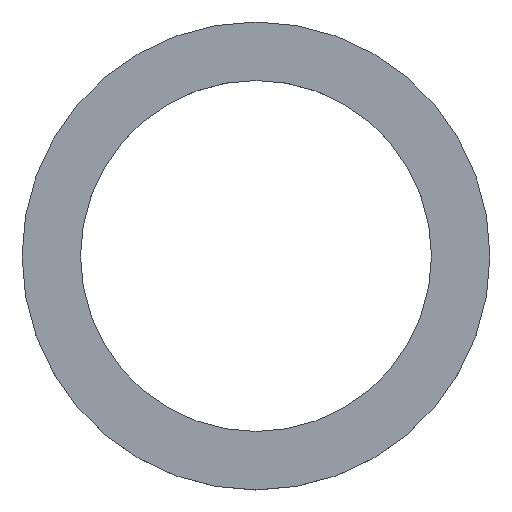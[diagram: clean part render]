
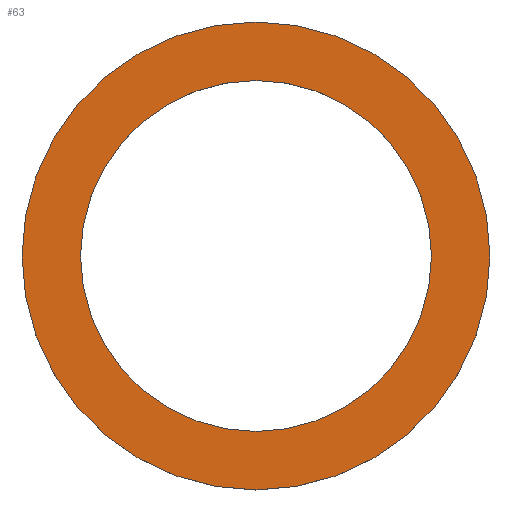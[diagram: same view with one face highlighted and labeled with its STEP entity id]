
A CAD part, top view. The second image highlights one B-rep face of the part: STEP entity #63.
In plain terms, the highlighted planar face has unit normal (0, 0, 1).
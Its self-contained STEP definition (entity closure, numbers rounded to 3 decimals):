
#15=FACE_BOUND('',#26,.T.);
#17=PLANE('',#91);
#21=FACE_OUTER_BOUND('',#25,.T.);
#25=EDGE_LOOP('',(#55));
#26=EDGE_LOOP('',(#56));
#33=CIRCLE('',#86,6.);
#35=CIRCLE('',#89,8.);
#37=VERTEX_POINT('',#115);
#39=VERTEX_POINT('',#121);
#41=EDGE_CURVE('',#37,#37,#33,.T.);
#44=EDGE_CURVE('',#39,#39,#35,.T.);
#55=ORIENTED_EDGE('',*,*,#44,.T.);
#56=ORIENTED_EDGE('',*,*,#41,.T.);
#63=ADVANCED_FACE('',(#21,#15),#17,.T.);
#86=AXIS2_PLACEMENT_3D('',#116,#97,#98);
#89=AXIS2_PLACEMENT_3D('',#122,#104,#105);
#91=AXIS2_PLACEMENT_3D('',#126,#109,#110);
#97=DIRECTION('center_axis',(0.,0.,-1.));
#98=DIRECTION('ref_axis',(-1.,0.,0.));
#104=DIRECTION('center_axis',(0.,0.,1.));
#105=DIRECTION('ref_axis',(1.,0.,0.));
#109=DIRECTION('center_axis',(0.,0.,1.));
#110=DIRECTION('ref_axis',(1.,0.,0.));
#115=CARTESIAN_POINT('',(14.001,0.,1.));
#116=CARTESIAN_POINT('Origin',(8.001,0.,1.));
#121=CARTESIAN_POINT('',(0.001,0.,1.));
#122=CARTESIAN_POINT('Origin',(8.001,0.,1.));
#126=CARTESIAN_POINT('Origin',(8.001,0.,1.));
